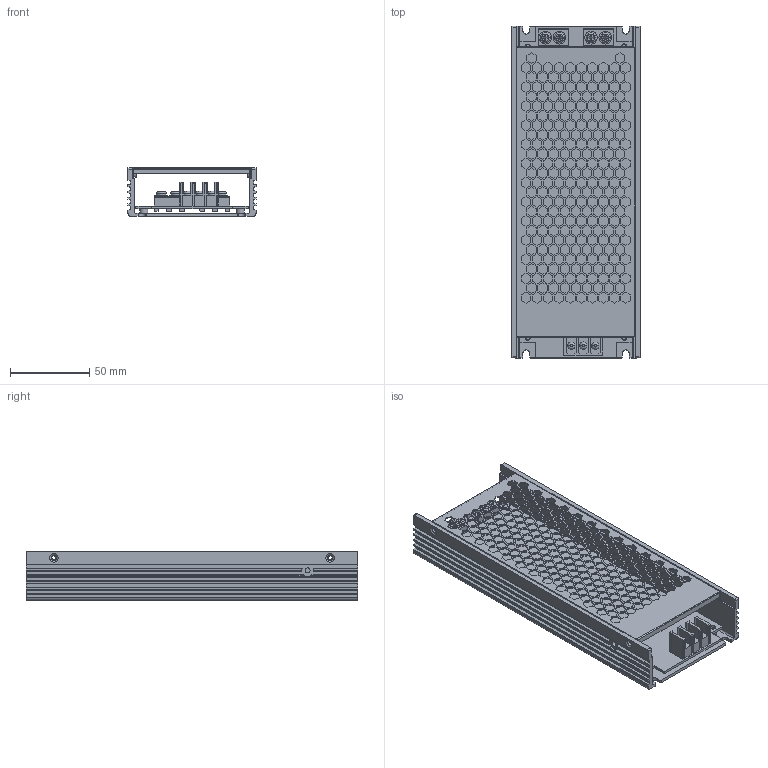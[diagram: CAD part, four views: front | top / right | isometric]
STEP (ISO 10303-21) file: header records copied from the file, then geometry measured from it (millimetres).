
FILE_DESCRIPTION(('Creo Elements/Direct Modeling STEP Export'),'2;1');
FILE_NAME('HSP-300.stp','2015-02-11T10:56:06',(''),(''),'PTC Creo Elements/Direct Modeling STEP processor for AP214 (Solid Model)','PTC Creo Elements/Direct Modeling 19.0 09-May-2014 (C) Parametric Technology GmbH','');
FILE_SCHEMA(('AUTOMOTIVE_DESIGN { 1 0 10303 214 1 1 1 1 }'));
Products named in the file (1): HSP-300A-D
Bounding box: 81 x 210 x 31 mm (x, y, z)
Volume: 102659 mm3; surface area: 116317.9 mm2
Topology: 1 solids, 8 shells, 2119 faces, 6121 edges, 4072 vertices
Faces by surface type: plane 1835, cylinder 238, torus 30, cone 16
Entity records: 67346 total; most frequent: ORIENTED_EDGE 12250, CARTESIAN_POINT 11790, DIRECTION 10077, EDGE_CURVE 6121, VECTOR 5359, LINE 5359, VERTEX_POINT 4072, EDGE_LOOP 2721
